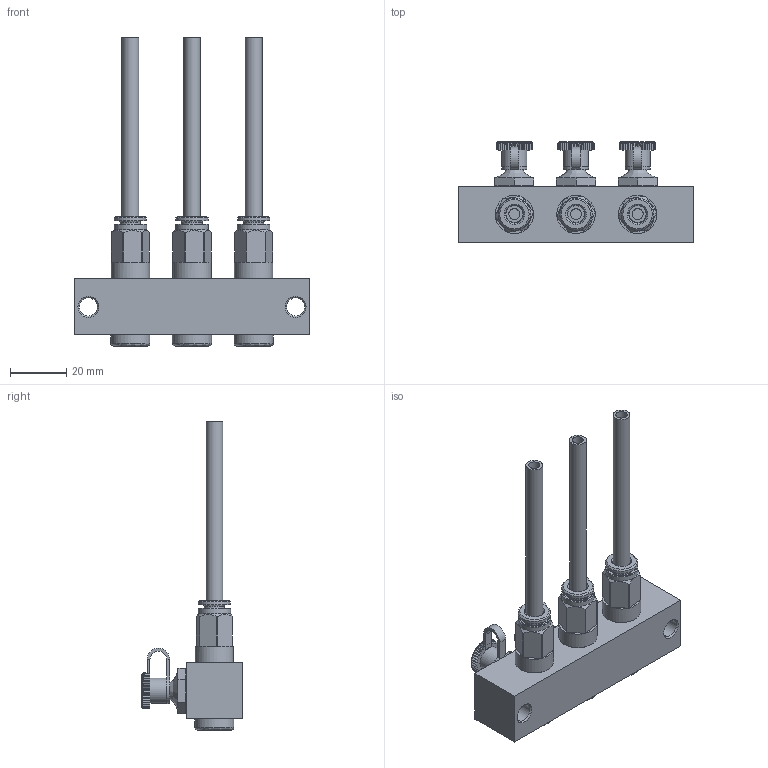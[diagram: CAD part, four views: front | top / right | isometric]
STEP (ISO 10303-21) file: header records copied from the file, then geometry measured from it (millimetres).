
FILE_DESCRIPTION (( 'STEP AP214' ), '1' );
FILE_NAME ('1460_0103_HD.STEP', '2026-01-26T13:51:42', ( '' ), ( '' ), 'SwSTEP 2.0', 'SolidWorks 2022', '' );
FILE_SCHEMA (( 'AUTOMOTIVE_DESIGN' ));
Length unit declared in the file: millimetre
Products named in the file (14): 749-M10X1-A; 1460_steckverscgraubung_Rohr 6x1; H200139_HDS01_6_M10X1_08.05.17; DR6-C_HDX_25.07.16_1; 1460_0103_HD; Lasche_Staubkappe; RIVOLUZIONE_0_2; 1460_01_03_ASL-03; Schmiernippel_Staubkappe; Staubkappe; POLY_6_4_Bogen_2; OR 7.66X1.78_1; Staubkappe_Fettnippel; schmiernippel_M10_1
Assembly tree (19 placements, depth 4):
  1460_0103_HD
    1460_01_03_ASL-03
    Schmiernippel_Staubkappe  x3
      schmiernippel_M10_1
      Staubkappe_Fettnippel
        Lasche_Staubkappe
        Staubkappe
    749-M10X1-A  x3
    1460_steckverscgraubung_Rohr 6x1  x3
      POLY_6_4_Bogen_2
      H200139_HDS01_6_M10X1_08.05.17
        OR 7.66X1.78_1
        DR6-C_HDX_25.07.16_1
        RIVOLUZIONE_0_2
Bounding box: 84 x 36 x 110.1 mm (x, y, z)
Volume: 42038.3 mm3; surface area: 35590.3 mm2
Topology: 22 solids, 28 shells, 829 faces, 2194 edges, 1451 vertices
Faces by surface type: plane 522, cylinder 117, bspline 117, cone 73
Full cylindrical faces by diameter (mm): 1.5 x3, 4 x3, 4.2 x3, 5 x3, 6 x6, 6.2 x3, 6.3 x3, 6.495 x3, 6.5 x2, 7.2 x3, 8.4 x3, 8.5 x3, 9 x3, 9.9 x3, 10 x12, 10.3 x3, 11.5 x3, 11.7 x3, 11.9 x3, 13.7 x3, 14 x3
Entity records: 39762 total; most frequent: CARTESIAN_POINT 30909, ORIENTED_EDGE 1765, DIRECTION 1205, EDGE_CURVE 884, VERTEX_POINT 618, EDGE_LOOP 456, AXIS2_PLACEMENT_3D 437, FACE_OUTER_BOUND 390
